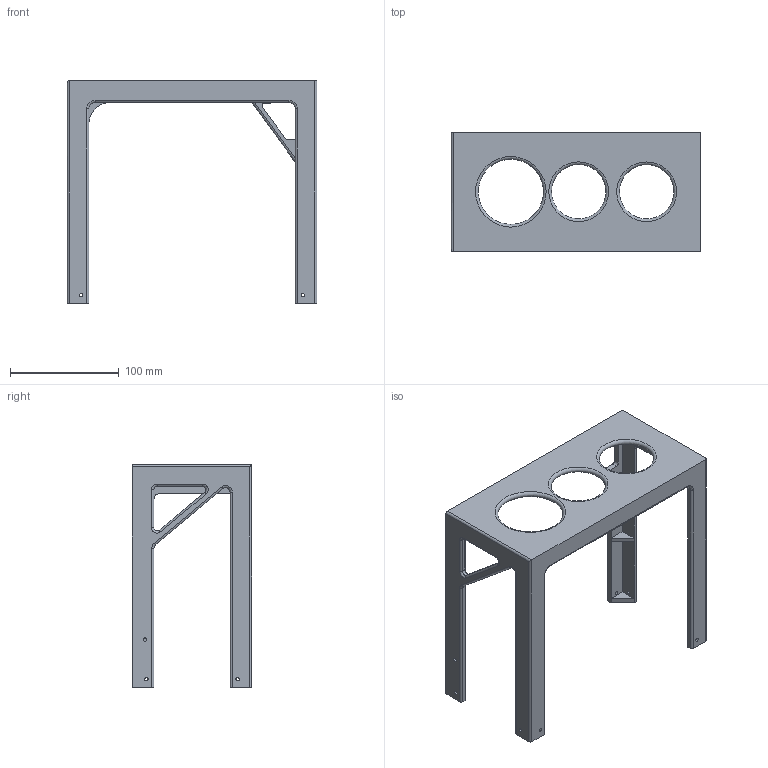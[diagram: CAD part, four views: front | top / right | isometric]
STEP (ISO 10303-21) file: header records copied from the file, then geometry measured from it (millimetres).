
FILE_DESCRIPTION(/* description */ (''),/* implementation_level */ '2;1');
FILE_NAME(/* name */ 'D:/Down/Druck/Tisch/TischV58.step',/* time_stamp */ '2022-02-09T16:37:18+07:00',/* author */ (''),/* organization */ (''),/* preprocessor_version */ 'ST-DEVELOPER v18.1',/* originating_system */ 'Autodesk Translation Framework v10.13.0.1454',/* authorisation */ '');
FILE_SCHEMA (('AUTOMOTIVE_DESIGN { 1 0 10303 214 3 1 1 }'));
Length unit declared in the file: millimetre
Products named in the file (1): Tisch
Bounding box: 230 x 110 x 205 mm (x, y, z)
Volume: 270130 mm3; surface area: 121758 mm2
Topology: 1 solids, 1 shells, 129 faces, 335 edges, 207 vertices
Faces by surface type: plane 67, cylinder 48, torus 13, bspline 1
Full cylindrical faces by diameter (mm): 3.1 x6, 3.2 x3, 4.2 x3, 11.8 x2
Entity records: 4028 total; most frequent: DIRECTION 708, CARTESIAN_POINT 679, ORIENTED_EDGE 668, EDGE_CURVE 334, AXIS2_PLACEMENT_3D 245, LINE 218, VECTOR 218, VERTEX_POINT 207
